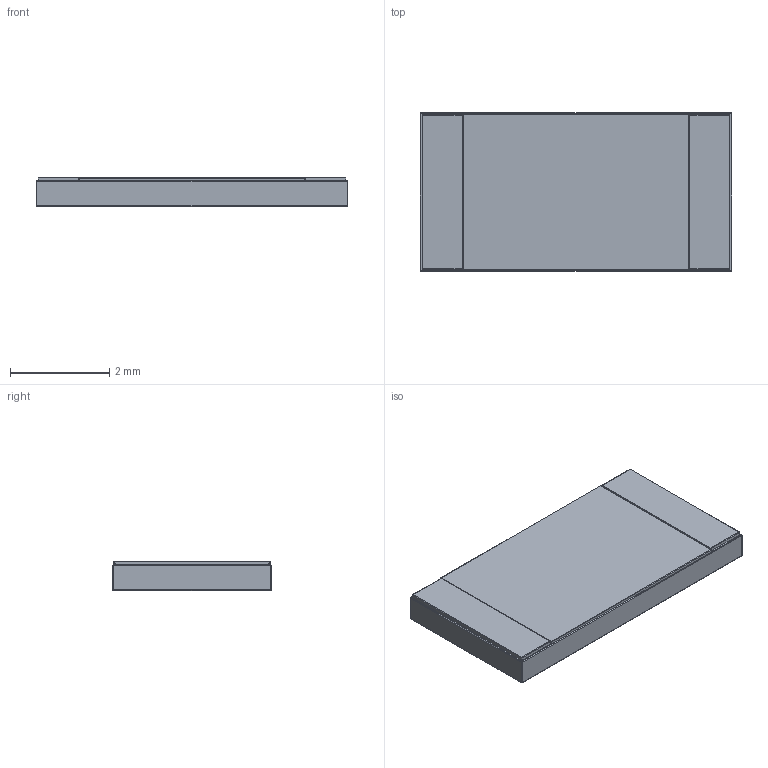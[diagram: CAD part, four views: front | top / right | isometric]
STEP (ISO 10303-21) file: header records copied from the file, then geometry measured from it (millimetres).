
FILE_DESCRIPTION(('STEP AP203'), '1');
FILE_NAME('R2-105-2512', '', ('UNSPECIFIED'), ('UNSPECIFIED'), 'ASCON STEP Converter 1.6', 'ASCON Math Kernel', '');
FILE_SCHEMA(('CONFIG_CONTROL_DESIGN'));
Length unit declared in the file: millimetre
Bounding box: 6.3 x 3.2 x 0.59 mm (x, y, z)
Volume: 11.8 mm3; surface area: 91.5 mm2
Topology: 4 solids, 5 shells, 91 faces, 207 edges, 110 vertices
Faces by surface type: plane 39, cylinder 36, sphere 16
Entity records: 3165 total; most frequent: DIRECTION 435, CARTESIAN_POINT 405, ORIENTED_EDGE 382, EDGE_CURVE 191, AXIS2_PLACEMENT_3D 156, LINE 123, VECTOR 123, VERTEX_POINT 110
